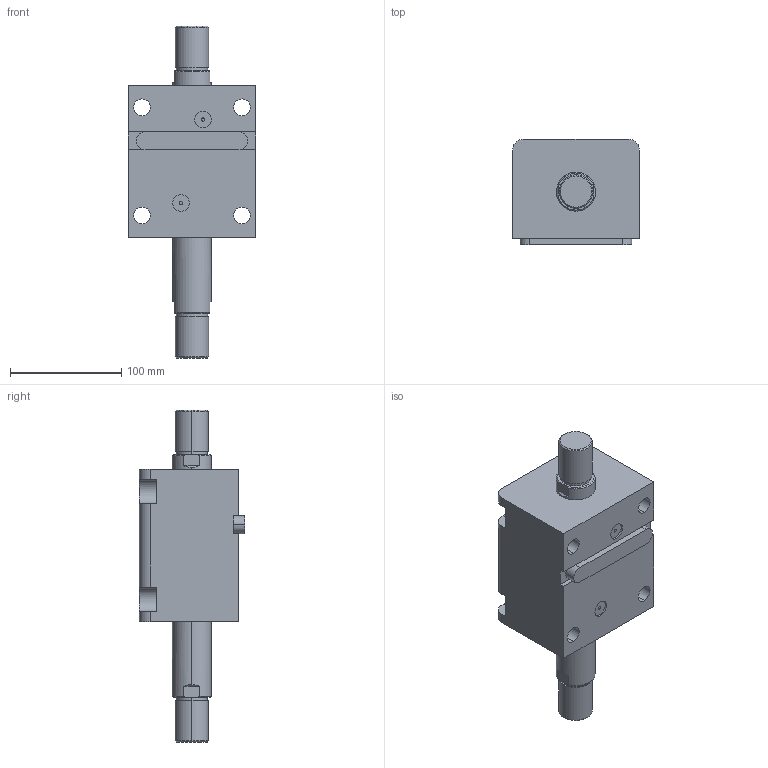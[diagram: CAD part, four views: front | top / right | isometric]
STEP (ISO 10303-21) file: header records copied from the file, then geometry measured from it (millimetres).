
FILE_DESCRIPTION (( 'STEP AP203' ), '1' );
FILE_NAME ('HTB-LWM63-55W.STEP', '2020-12-25T03:48:50', ( '微软用户' ), ( '微软中国' ), 'SwSTEP 2.0', 'SolidWorks 2012', '' );
FILE_SCHEMA (( 'CONFIG_CONTROL_DESIGN' ));
Length unit declared in the file: millimetre
Products named in the file (4): HTB-LWM63-55掛极; HTB-LWM63-55W活塞杆; HTB-LWM63-瑩; HTB-LWM63-55W
Assembly tree (3 placements, depth 2):
  HTB-LWM63-55W
    HTB-LWM63-55掛极
    HTB-LWM63-55W活塞杆
    HTB-LWM63-瑩
Bounding box: 114 x 94.5 x 298 mm (x, y, z)
Volume: 1327436.9 mm3; surface area: 159446.6 mm2
Topology: 3 solids, 3 shells, 113 faces, 273 edges, 178 vertices
Faces by surface type: cylinder 49, plane 48, torus 8, cone 8
Entity records: 3783 total; most frequent: CARTESIAN_POINT 626, DIRECTION 617, ORIENTED_EDGE 546, EDGE_CURVE 273, AXIS2_PLACEMENT_3D 241, VERTEX_POINT 178, EDGE_LOOP 135, VECTOR 135
